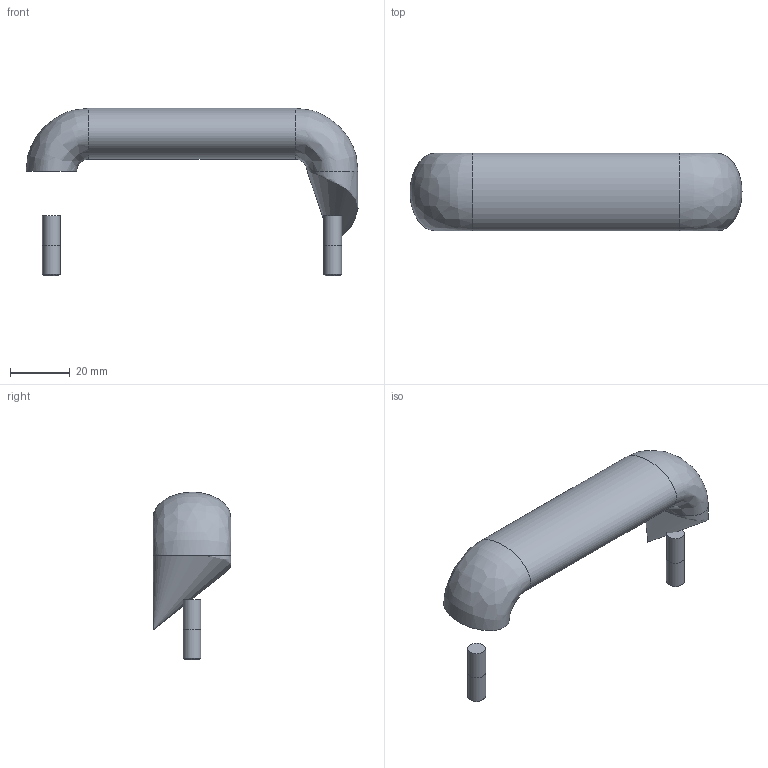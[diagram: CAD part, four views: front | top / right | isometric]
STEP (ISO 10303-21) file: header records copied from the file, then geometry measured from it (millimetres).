
FILE_DESCRIPTION( ('This file contains a STEP AP42 implementation' ,'as created by ZW3D STEP Interface translator.') ,'2;1' );
FILE_NAME( 'U.50_120.stp' ,'26 5 8. 65044', (''), ('ZWCAD Software Co.'), 'Version 1.0', 'ZW3D to STEP translator', '' );
FILE_SCHEMA(('AP242_MANAGED_MODEL_BASED_3D_ENGINEERING_MIM_LF { 1 0 10303 442 1 1 4 }'));
Length unit declared in the file: millimetre
Products named in the file (1): 0
Bounding box: 110.99 x 26 x 55.99 mm (x, y, z)
Volume: 44235.9 mm3; surface area: 10462.2 mm2
Topology: 5 solids, 5 shells, 19 faces, 24 edges, 15 vertices
Faces by surface type: plane 8, bspline 5, cylinder 4, cone 2
Full cylindrical faces by diameter (mm): 6 x4
Entity records: 547 total; most frequent: CARTESIAN_POINT 198, DIRECTION 67, ORIENTED_EDGE 54, AXIS2_PLACEMENT_3D 29, EDGE_CURVE 27, EDGE_LOOP 21, FACE_OUTER_BOUND 19, ADVANCED_FACE 19
